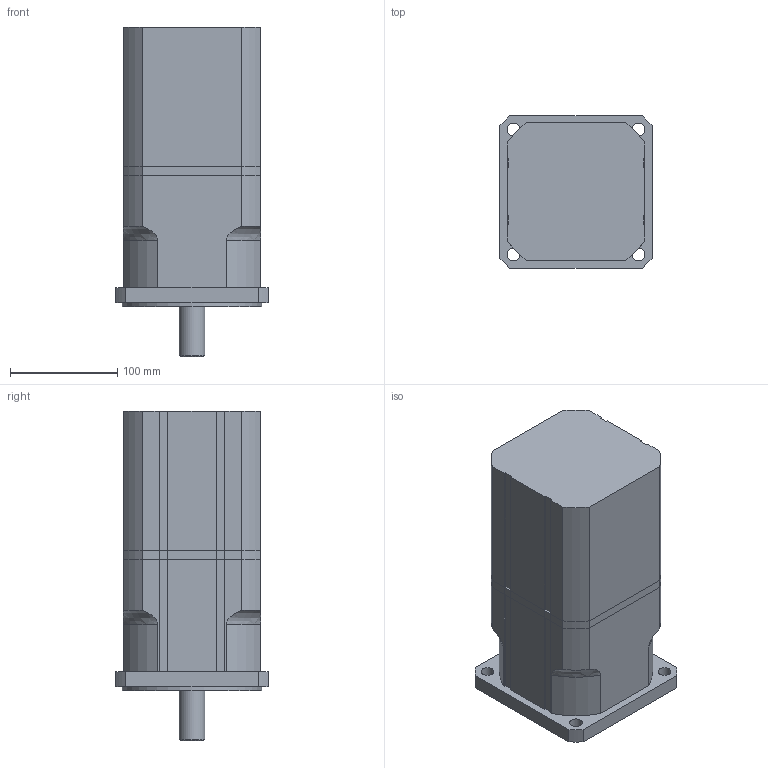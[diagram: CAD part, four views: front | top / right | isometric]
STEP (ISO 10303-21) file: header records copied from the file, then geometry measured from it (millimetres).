
FILE_DESCRIPTION(/* description */ ('Alibre Inc.'),/* implementation_level */ '2;1');
FILE_NAME(/* name */ 'export0',/* time_stamp */ '2011-04-05T09:35:57+02:00',/* author */ (''),/* organization */ (''),/* preprocessor_version */ 'ST-DEVELOPER v12',/* originating_system */ 'Alibre',/* authorisation */ '');
FILE_SCHEMA (('ALIBRE_SCHEMA','CONFIG_CONTROL_DESIGN'));
Length unit declared in the file: millimetre
Products named in the file (4): ID_1
Bounding box: 142 x 142 x 307 mm (x, y, z)
Volume: 4644691 mm3; surface area: 233957.5 mm2
Topology: 3 solids, 3 shells, 164 faces, 445 edges, 296 vertices
Faces by surface type: plane 78, cylinder 65, bspline 12, cone 5, torus 4
Full cylindrical faces by diameter (mm): 2.7 x4, 20 x3, 22 x2, 24 x1, 130 x1
Entity records: 16848 total; most frequent: CARTESIAN_POINT 4467, ORIENTED_EDGE 2036, DIRECTION 1962, EDGE_CURVE 1018, AXIS2_PLACEMENT_3D 737, VERTEX_POINT 714, VECTOR 684, LINE 658
